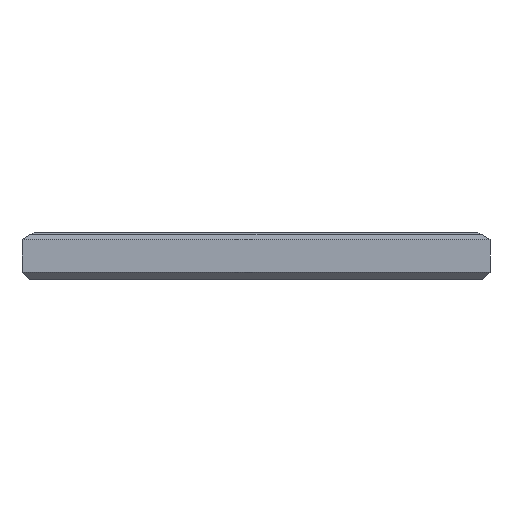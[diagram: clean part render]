
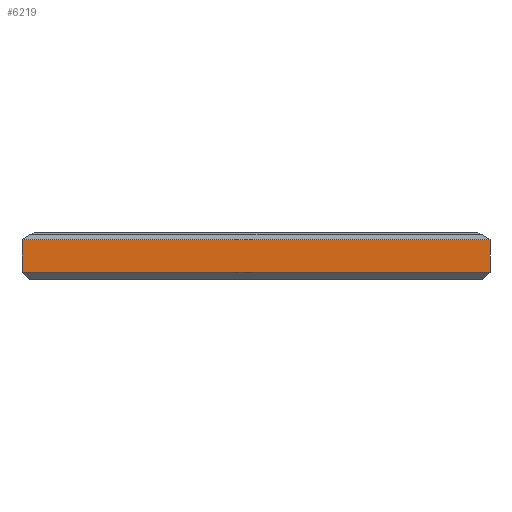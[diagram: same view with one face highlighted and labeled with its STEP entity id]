
A CAD part, front view. The second image highlights one B-rep face of the part: STEP entity #6219.
In plain terms, the highlighted planar face has unit normal (0, -1, 0).
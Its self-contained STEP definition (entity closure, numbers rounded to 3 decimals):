
#160 = VERTEX_POINT ( 'NONE', #9102 ) ;
#173 = LINE ( 'NONE', #5132, #10288 ) ;
#327 = ORIENTED_EDGE ( 'NONE', *, *, #4199, .T. ) ;
#1852 = VECTOR ( 'NONE', #10230, 1000. ) ;
#1989 = EDGE_CURVE ( 'NONE', #6996, #11274, #4468, .T. ) ;
#2599 = CARTESIAN_POINT ( 'NONE',  ( 200., 0., 17. ) ) ;
#2823 = VECTOR ( 'NONE', #9503, 1000. ) ;
#3408 = PLANE ( 'NONE',  #9823 ) ;
#3409 = ORIENTED_EDGE ( 'NONE', *, *, #4082, .F. ) ;
#3680 = CARTESIAN_POINT ( 'NONE',  ( 100., 0., 3. ) ) ;
#4082 = EDGE_CURVE ( 'NONE', #8451, #6996, #4956, .T. ) ;
#4199 = EDGE_CURVE ( 'NONE', #8451, #160, #5721, .T. ) ;
#4218 = ORIENTED_EDGE ( 'NONE', *, *, #1989, .F. ) ;
#4397 = CARTESIAN_POINT ( 'NONE',  ( 100., 0., 17. ) ) ;
#4468 = LINE ( 'NONE', #4397, #1852 ) ;
#4956 = LINE ( 'NONE', #8377, #12437 ) ;
#5132 = CARTESIAN_POINT ( 'NONE',  ( 200., 0., 10. ) ) ;
#5415 = DIRECTION ( 'NONE',  ( 0., -1., 0. ) ) ;
#5721 = LINE ( 'NONE', #3680, #2823 ) ;
#6219 = ADVANCED_FACE ( 'NONE', ( #12307 ), #3408, .T. ) ;
#6996 = VERTEX_POINT ( 'NONE', #7000 ) ;
#7000 = CARTESIAN_POINT ( 'NONE',  ( 0., 0., 17. ) ) ;
#7332 = DIRECTION ( 'NONE',  ( 0., 0., 1. ) ) ;
#7730 = CARTESIAN_POINT ( 'NONE',  ( 0., 0., 3. ) ) ;
#8120 = EDGE_CURVE ( 'NONE', #160, #11274, #173, .T. ) ;
#8377 = CARTESIAN_POINT ( 'NONE',  ( 0., 0., 10. ) ) ;
#8451 = VERTEX_POINT ( 'NONE', #7730 ) ;
#9102 = CARTESIAN_POINT ( 'NONE',  ( 200., 0., 3. ) ) ;
#9503 = DIRECTION ( 'NONE',  ( 1., 0., 0. ) ) ;
#9619 = ORIENTED_EDGE ( 'NONE', *, *, #8120, .T. ) ;
#9823 = AXIS2_PLACEMENT_3D ( 'NONE', #11266, #5415, #12219 ) ;
#10230 = DIRECTION ( 'NONE',  ( 1., 0., 0. ) ) ;
#10288 = VECTOR ( 'NONE', #10977, 1000. ) ;
#10599 = EDGE_LOOP ( 'NONE', ( #9619, #4218, #3409, #327 ) ) ;
#10977 = DIRECTION ( 'NONE',  ( 0., 0., 1. ) ) ;
#11266 = CARTESIAN_POINT ( 'NONE',  ( 0., 0., 0. ) ) ;
#11274 = VERTEX_POINT ( 'NONE', #2599 ) ;
#12219 = DIRECTION ( 'NONE',  ( 0., 0., -1. ) ) ;
#12307 = FACE_OUTER_BOUND ( 'NONE', #10599, .T. ) ;
#12437 = VECTOR ( 'NONE', #7332, 1000. ) ;
